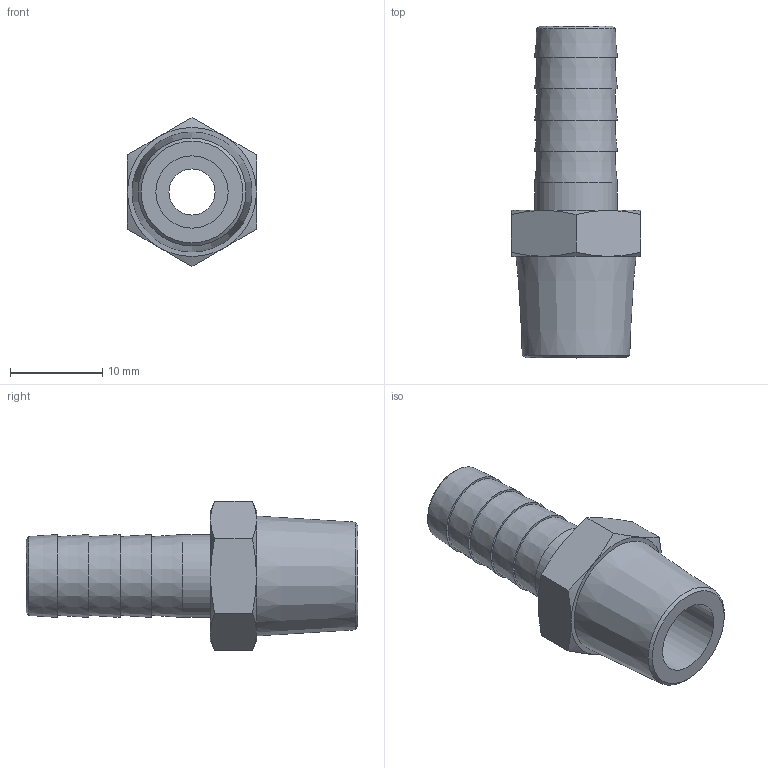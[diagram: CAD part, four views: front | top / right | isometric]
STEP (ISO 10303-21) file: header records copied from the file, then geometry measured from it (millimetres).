
FILE_DESCRIPTION(/* description */ (''),/* implementation_level */ '2;1');
FILE_NAME(/* name */ 'BXH09 09B2 00.stp',/* time_stamp */ '2026-06-22T11:16:38+02:00',/* author */ ('freju'),/* organization */ (''),/* preprocessor_version */ 'ST-DEVELOPER v20.1',/* originating_system */ 'Autodesk Inventor 2026',/* authorisation */ '');
FILE_SCHEMA (('AUTOMOTIVE_DESIGN { 1 0 10303 214 3 1 1 }'));
Length unit declared in the file: millimetre
Products named in the file (1): BXH09 09B2 00
Bounding box: 14 x 36 x 16.17 mm (x, y, z)
Volume: 2318.7 mm3; surface area: 2166.6 mm2
Topology: 1 solids, 1 shells, 38 faces, 75 edges, 46 vertices
Faces by surface type: cone 20, plane 15, cylinder 3
Full cylindrical faces by diameter (mm): 5 x1, 7.85 x1, 9 x1
Entity records: 1000 total; most frequent: CARTESIAN_POINT 208, DIRECTION 163, ORIENTED_EDGE 150, EDGE_CURVE 75, AXIS2_PLACEMENT_3D 73, EDGE_LOOP 47, VERTEX_POINT 46, FACE_OUTER_BOUND 38
